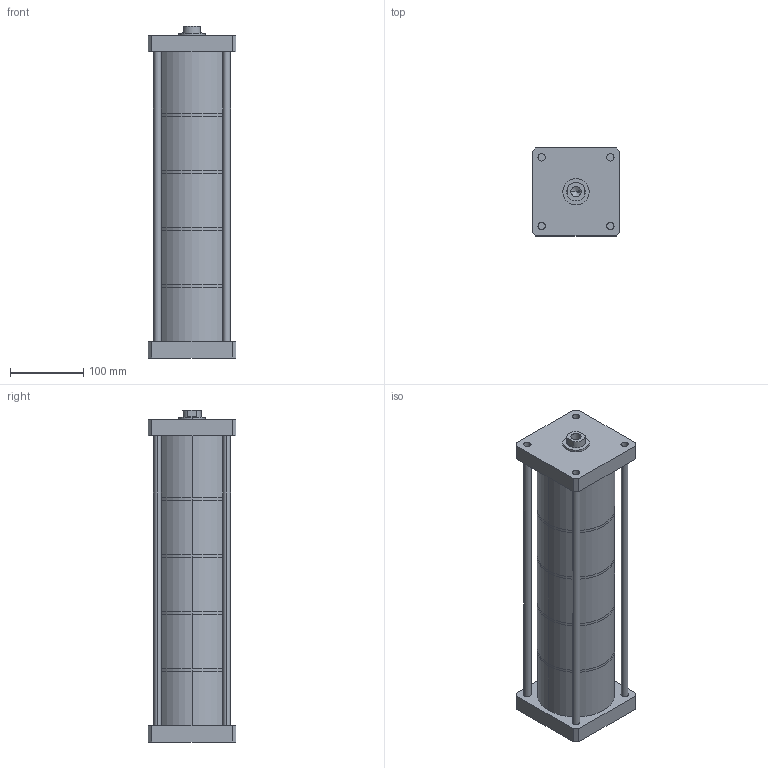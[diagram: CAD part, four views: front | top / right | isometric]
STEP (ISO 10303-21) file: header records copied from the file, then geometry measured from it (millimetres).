
FILE_DESCRIPTION (( 'STEP AP203' ), '1' );
FILE_NAME ('MHK-100-50-F-5.STEP', '2016-03-31T03:28:30', ( 'WIN' ), ( '' ), 'SwSTEP 2.0', 'SolidWorks 2014', '' );
FILE_SCHEMA (( 'CONFIG_CONTROL_DESIGN' ));
Length unit declared in the file: millimetre
Products named in the file (1): MHK-100-50-F-5
Bounding box: 120 x 120 x 454 mm (x, y, z)
Volume: 1234937.1 mm3; surface area: 474789.1 mm2
Topology: 14 solids, 14 shells, 190 faces, 418 edges, 277 vertices
Faces by surface type: plane 98, cylinder 90, cone 2
Entity records: 5367 total; most frequent: DIRECTION 990, CARTESIAN_POINT 884, ORIENTED_EDGE 832, EDGE_CURVE 416, AXIS2_PLACEMENT_3D 383, VERTEX_POINT 277, EDGE_LOOP 229, VECTOR 224
